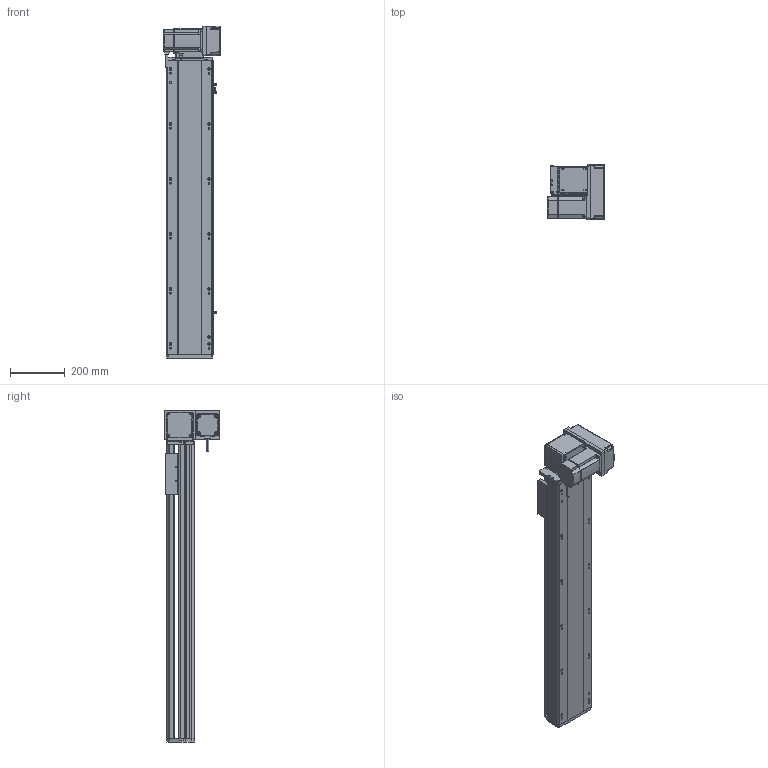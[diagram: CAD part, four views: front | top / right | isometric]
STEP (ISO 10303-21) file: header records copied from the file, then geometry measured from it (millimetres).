
FILE_DESCRIPTION (( 'STEP AP214' ), '1' );
FILE_NAME ('RTB17S-XX-800-RM-M75-C4.STEP', '2025-12-12T02:04:09', ( '' ), ( '' ), 'SwSTEP 2.0', 'SolidWorks 2018', '' );
FILE_SCHEMA (( 'AUTOMOTIVE_DESIGN' ));
Length unit declared in the file: millimetre
Products named in the file (15): RTB22S-GY-005P^RTB17S-RM-々湍釱蚾饜-750W_RTB17S-XX-XX-RM-M75-C4; RTB17S-賑釱^RTB17S-XX-XX-RM-M75-C4; RTB17S-L-014-T20-P75--々湍釱^RTB17S-RM-々湍釱蚾饜-750W_RTB17S-XX-XX-RM-M75-C4; RTB17S-XX-800-RM-M75-C4; RTB17S-L-004-賑釱^RTB17S-賑釱_RTB17S-XX-XX-RM-M75-C4; RTB17S-RM-々湍釱蚾饜-750W^RTB17S-XX-XX-RM-M75-C4; 750W萇儂^RTB17S-XX-XX-RM-M75-C4; RTB22S-GY-018P^RTB17S-RM-々湍釱蚾饜-750W_RTB17S-XX-XX-RM-M75-C4; RTH13-BL-012覜茼え俋离^RTB17S-賑釱_RTB17S-XX-XX-RM-M75-C4; EE672^RTB17S-XX-XX-RM-M75-C4; RTB17S-L-001-耜醱啣^RTB17S-XX-XX-RM-M75-C4; RTB17S-L-007奻裔^RTB17S-XX-XX-RM-M75-C4; RTB22S-GY-017P^RTB17S-RM-々湍釱蚾饜-750W_RTB17S-XX-XX-RM-M75-C4; RTB17-R-011菁釱^RTB17S-XX-XX-RM-M75-C4; RTB22S-GY-008-M75--萇儂啣^RTB17S-RM-々湍釱蚾饜-750W_RTB17S-XX-XX-RM-M75-C4
Assembly tree (17 placements, depth 3):
  RTB17S-XX-800-RM-M75-C4
    RTB17-R-011菁釱^RTB17S-XX-XX-RM-M75-C4
    EE672^RTB17S-XX-XX-RM-M75-C4  x3
    RTB17S-L-001-耜醱啣^RTB17S-XX-XX-RM-M75-C4
    RTB17S-賑釱^RTB17S-XX-XX-RM-M75-C4
      RTB17S-L-004-賑釱^RTB17S-賑釱_RTB17S-XX-XX-RM-M75-C4
      RTH13-BL-012覜茼え俋离^RTB17S-賑釱_RTB17S-XX-XX-RM-M75-C4
    RTB17S-L-007奻裔^RTB17S-XX-XX-RM-M75-C4
    750W萇儂^RTB17S-XX-XX-RM-M75-C4
    RTB17S-RM-々湍釱蚾饜-750W^RTB17S-XX-XX-RM-M75-C4
      RTB17S-L-014-T20-P75--々湍釱^RTB17S-RM-々湍釱蚾饜-750W_RTB17S-XX-XX-RM-M75-C4
      RTB22S-GY-005P^RTB17S-RM-々湍釱蚾饜-750W_RTB17S-XX-XX-RM-M75-C4
      RTB22S-GY-017P^RTB17S-RM-々湍釱蚾饜-750W_RTB17S-XX-XX-RM-M75-C4  x2
      RTB22S-GY-008-M75--萇儂啣^RTB17S-RM-々湍釱蚾饜-750W_RTB17S-XX-XX-RM-M75-C4
      RTB22S-GY-018P^RTB17S-RM-々湍釱蚾饜-750W_RTB17S-XX-XX-RM-M75-C4
Bounding box: 207.4 x 200 x 1207.5 mm (x, y, z)
Volume: 10953528.4 mm3; surface area: 1824353.9 mm2
Topology: 17 solids, 17 shells, 2073 faces, 5728 edges, 3698 vertices
Faces by surface type: plane 968, cylinder 689, bspline 294, cone 110, sphere 8, torus 4
Entity records: 57334 total; most frequent: CARTESIAN_POINT 16792, ORIENTED_EDGE 8300, DIRECTION 7772, EDGE_CURVE 4150, AXIS2_PLACEMENT_3D 2718, VERTEX_POINT 2702, VECTOR 2336, LINE 2336
